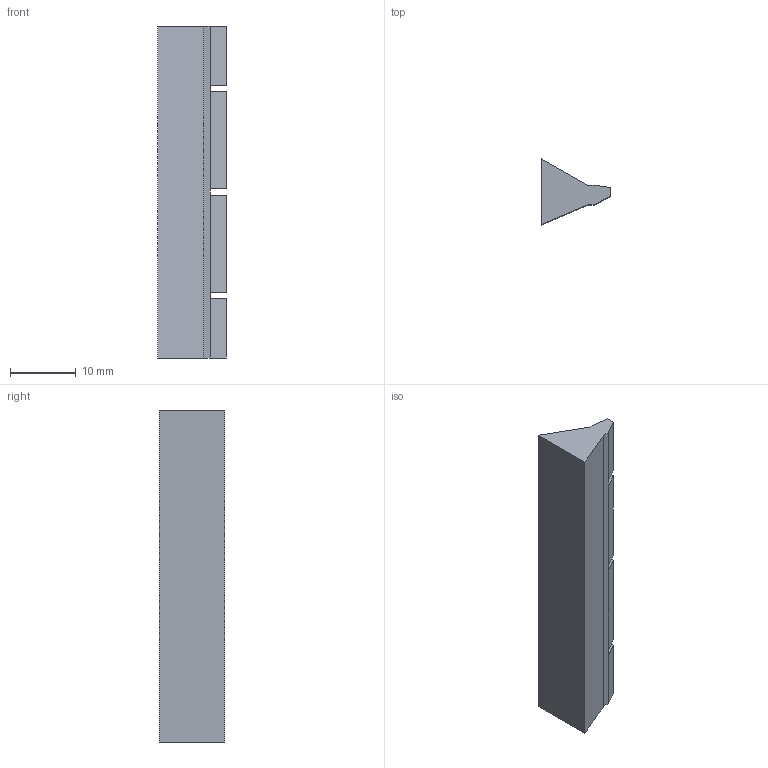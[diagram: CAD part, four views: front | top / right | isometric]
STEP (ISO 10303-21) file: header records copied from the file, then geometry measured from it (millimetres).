
FILE_DESCRIPTION(('STEP AP203'), '1');
FILE_NAME('ïîäñòàâêà 7-8ìì öåíòðîâàíûé', '', ('UNSPECIFIED'), ('UNSPECIFIED'), 'ASCON STEP Converter 1.3', 'ASCON Math Kernel', '');
FILE_SCHEMA(('CONFIG_CONTROL_DESIGN'));
Length unit declared in the file: millimetre
Bounding box: 10.5 x 10 x 50.6 mm (x, y, z)
Volume: 2720.1 mm3; surface area: 1866.5 mm2
Topology: 1 solids, 1 shells, 28 faces, 66 edges, 40 vertices
Faces by surface type: plane 28
Entity records: 1042 total; most frequent: CARTESIAN_POINT 135, ORIENTED_EDGE 132, DIRECTION 124, EDGE_CURVE 66, LINE 66, VECTOR 66, VERTEX_POINT 40, AXIS2_PLACEMENT_3D 29
